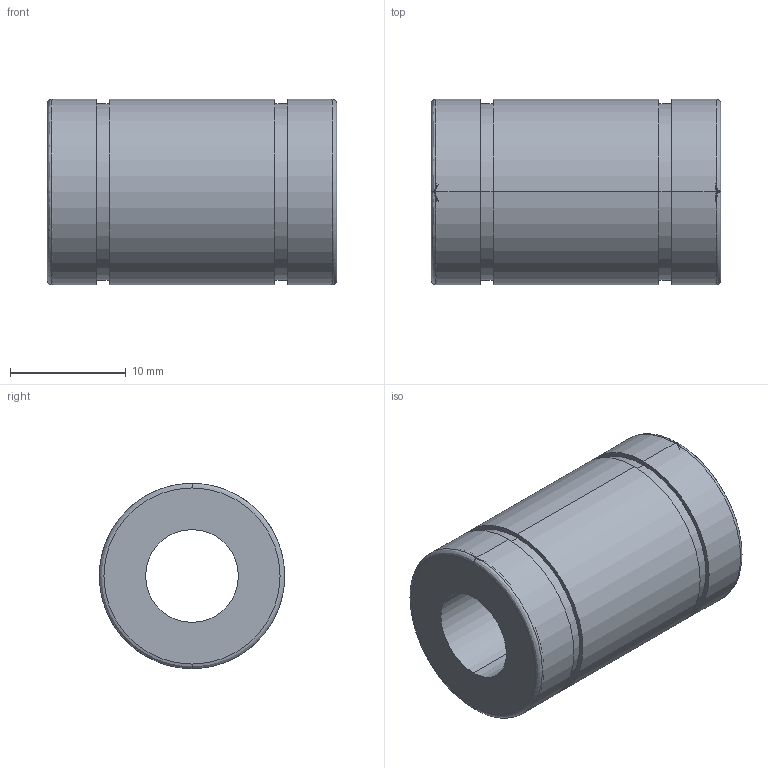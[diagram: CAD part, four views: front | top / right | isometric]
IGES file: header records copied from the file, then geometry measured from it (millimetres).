
Start section: 3D InterOp IGES (Version 21 0 1), Spatial Corp. Copyright (c) 1999-2007.
Global section: file name: L-8V.igs; native system: Spatial Corp.; preprocessor: 3D InterOp GENERIC/IGES 3.0; author: Noname; organization: Noname; date: 20220516.094032; units: millimetre
Bounding box: 25 x 16 x 16 mm (x, y, z)
Surface area: 2598.1 mm2 (no closed solid volume)
Topology: 0 solids, 0 shells, 22 faces, 96 edges, 92 vertices
Faces by surface type: revolution 16, extrusion 6
